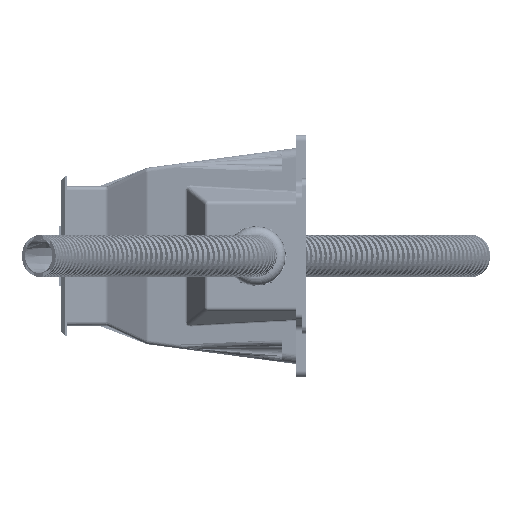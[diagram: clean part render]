
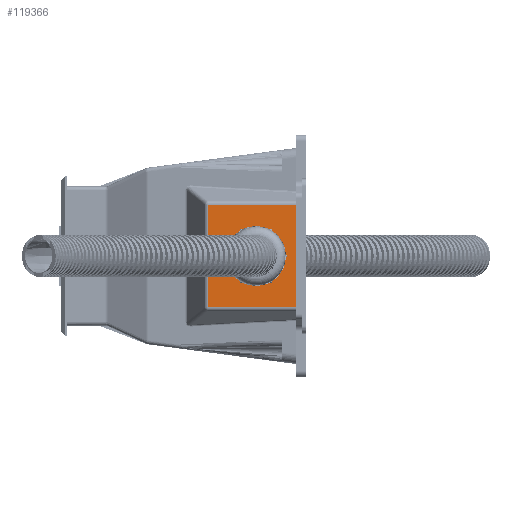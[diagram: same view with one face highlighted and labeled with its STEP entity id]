
A CAD part, left-side view. The second image highlights one B-rep face of the part: STEP entity #119366.
In plain terms, the highlighted planar face has unit normal (-1, 0, 0).
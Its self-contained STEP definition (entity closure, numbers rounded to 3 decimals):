
#108819=CARTESIAN_POINT('',(-200.,-75.,0.));
#108820=DIRECTION('',(1.,0.,0.));
#108821=DIRECTION('',(0.,0.,-1.));
#108822=AXIS2_PLACEMENT_3D('',#108819,#108820,#108821);
#108824=CARTESIAN_POINT('',(-200.,-75.,0.));
#108825=DIRECTION('',(1.,0.,0.));
#108826=DIRECTION('',(0.,0.,1.));
#108827=AXIS2_PLACEMENT_3D('',#108824,#108825,#108826);
#108829=DIRECTION('',(0.,1.,0.));
#108830=VECTOR('',#108829,44.154);
#108831=CARTESIAN_POINT('',(-200.,-95.,25.898));
#108832=LINE('',#108831,#108830);
#108833=DIRECTION('',(0.,0.,-1.));
#108834=VECTOR('',#108833,51.796);
#108835=CARTESIAN_POINT('',(-200.,-95.,25.898));
#108836=LINE('',#108835,#108834);
#108837=DIRECTION('',(0.,-1.,0.));
#108838=VECTOR('',#108837,44.154);
#108839=CARTESIAN_POINT('',(-200.,-50.846,-25.898));
#108840=LINE('',#108839,#108838);
#108841=DIRECTION('',(0.,0.,-1.));
#108842=VECTOR('',#108841,51.796);
#108843=CARTESIAN_POINT('',(-200.,-50.846,25.898));
#108844=LINE('',#108843,#108842);
#112815=CARTESIAN_POINT('',(-200.,-75.,-10.));
#112816=CARTESIAN_POINT('',(-200.,-75.,10.));
#112817=VERTEX_POINT('',#112815);
#112818=VERTEX_POINT('',#112816);
#113047=CARTESIAN_POINT('',(-200.,-95.,25.898));
#113048=CARTESIAN_POINT('',(-200.,-50.846,25.898));
#113049=VERTEX_POINT('',#113047);
#113050=VERTEX_POINT('',#113048);
#113059=CARTESIAN_POINT('',(-200.,-50.846,-25.898));
#113060=VERTEX_POINT('',#113059);
#113065=CARTESIAN_POINT('',(-200.,-95.,-25.898));
#113066=VERTEX_POINT('',#113065);
#119347=CARTESIAN_POINT('',(-200.,0.,0.));
#119348=DIRECTION('',(1.,0.,0.));
#119349=DIRECTION('',(0.,0.,-1.));
#119350=AXIS2_PLACEMENT_3D('',#119347,#119348,#119349);
#119351=PLANE('',#119350);
#119353=ORIENTED_EDGE('',*,*,#119352,.F.);
#119354=ORIENTED_EDGE('',*,*,#116552,.T.);
#119356=ORIENTED_EDGE('',*,*,#119355,.F.);
#119358=ORIENTED_EDGE('',*,*,#119357,.F.);
#119359=EDGE_LOOP('',(#119353,#119354,#119356,#119358));
#119360=FACE_OUTER_BOUND('',#119359,.F.);
#119361=ORIENTED_EDGE('',*,*,#119321,.F.);
#119363=ORIENTED_EDGE('',*,*,#119362,.F.);
#119364=EDGE_LOOP('',(#119361,#119363));
#119365=FACE_BOUND('',#119364,.F.);
#119366=ADVANCED_FACE('',(#119360,#119365),#119351,.F.);
#108823=CIRCLE('',#108822,10.);
#108828=CIRCLE('',#108827,10.);
#116552=EDGE_CURVE('',#113049,#113066,#108836,.T.);
#119321=EDGE_CURVE('',#112817,#112818,#108823,.T.);
#119352=EDGE_CURVE('',#113049,#113050,#108832,.T.);
#119355=EDGE_CURVE('',#113060,#113066,#108840,.T.);
#119357=EDGE_CURVE('',#113050,#113060,#108844,.T.);
#119362=EDGE_CURVE('',#112818,#112817,#108828,.T.);
